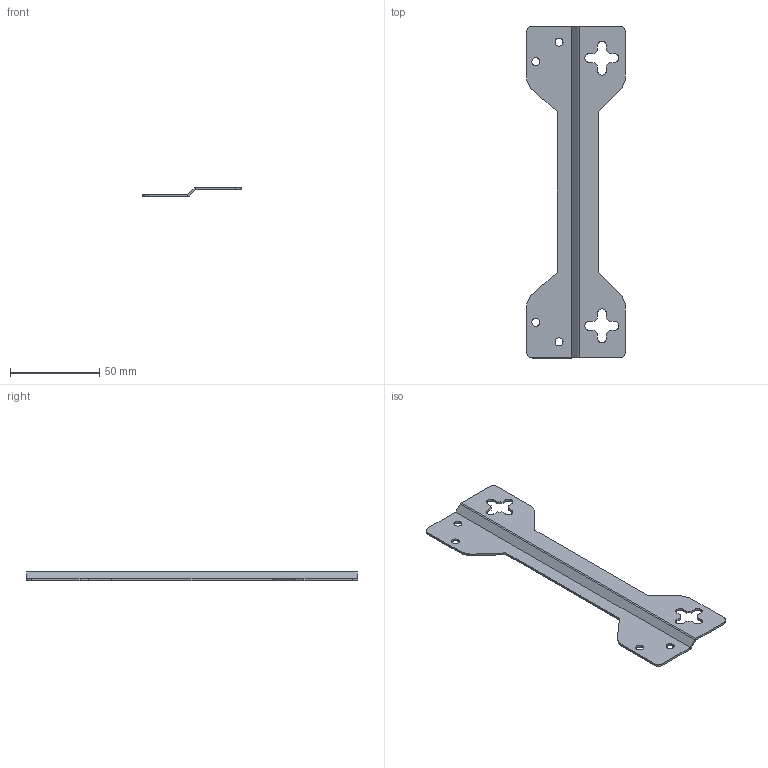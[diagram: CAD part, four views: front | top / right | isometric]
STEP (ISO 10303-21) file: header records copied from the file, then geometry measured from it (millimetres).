
FILE_DESCRIPTION((''),'2;1');
FILE_NAME('0000456797_PRT','2021-10-28T11:38:58',('pdmservice'),(''),'CREO PARAMETRIC BY PTC INC, 2018420','CREO PARAMETRIC BY PTC INC, 2018420','');
FILE_SCHEMA(('AUTOMOTIVE_DESIGN { 1 0 10303 214 1 1 1 1 }'));
Length unit declared in the file: millimetre
Products named in the file (1): 0000456797_PRT
Bounding box: 55 x 186 x 5.2 mm (x, y, z)
Volume: 8114.6 mm3; surface area: 14351.2 mm2
Topology: 1 solids, 1 shells, 76 faces, 206 edges, 132 vertices
Faces by surface type: plane 46, cylinder 30
Entity records: 3490 total; most frequent: DIRECTION 418, CARTESIAN_POINT 416, ORIENTED_EDGE 412, EDGE_CURVE 206, PROPERTY_DEFINITION 186, REPRESENTATION 185, PROPERTY_DEFINITION_REPRESENTATION 185, DESCRIPTIVE_REPRESENTATION_ITEM 159
